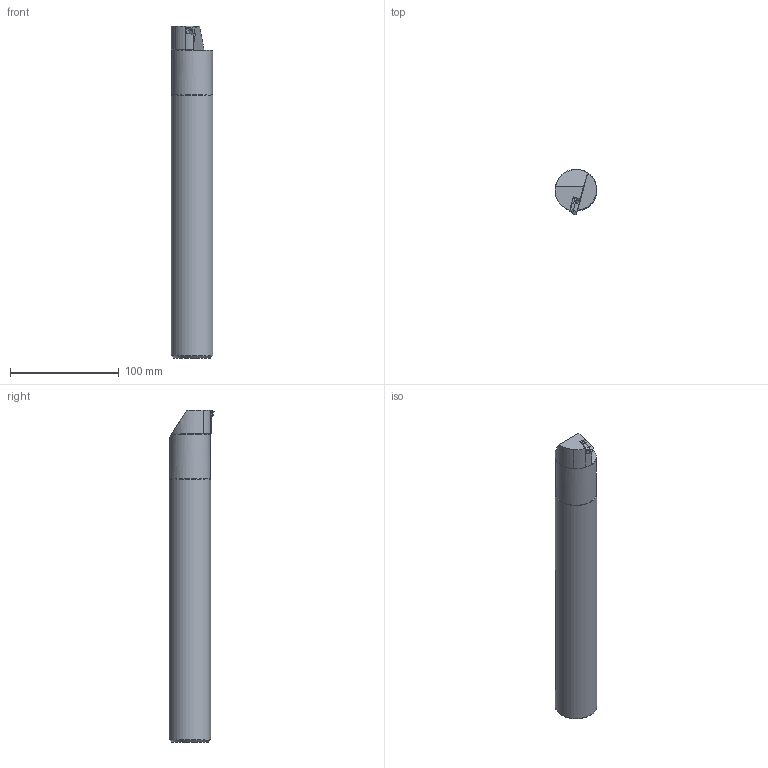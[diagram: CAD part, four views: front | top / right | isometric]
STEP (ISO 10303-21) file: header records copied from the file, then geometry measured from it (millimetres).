
FILE_DESCRIPTION (( 'STEP AP203' ), '1' );
FILE_NAME ('IRH150-16.STEP', '2020-11-09T01:27:29', ( '' ), ( '' ), 'SwSTEP 2.0', 'SolidWorks 2015', '' );
FILE_SCHEMA (( 'CONFIG_CONTROL_DESIGN' ));
Length unit declared in the file: millimetre
Products named in the file (5): IRH150-16; IRH150-16_ル遽; IR16_ル遽; ATI16_ル遽
Assembly tree (4 placements, depth 3):
  IRH150-16
    IRH150-16
      IRH150-16_ル遽
      ATI16_ル遽
      IR16_ル遽
Bounding box: 38.4 x 41.9 x 304.8 mm (x, y, z)
Volume: 333964 mm3; surface area: 38529 mm2
Topology: 3 solids, 3 shells, 60 faces, 153 edges, 99 vertices
Faces by surface type: plane 39, cylinder 15, cone 6
Full cylindrical faces by diameter (mm): 3.5 x1, 3.95 x1, 37.5 x1, 38.1 x1
Entity records: 2332 total; most frequent: CARTESIAN_POINT 394, DIRECTION 297, ORIENTED_EDGE 290, EDGE_CURVE 145, VECTOR 99, LINE 99, AXIS2_PLACEMENT_3D 99, VERTEX_POINT 98
